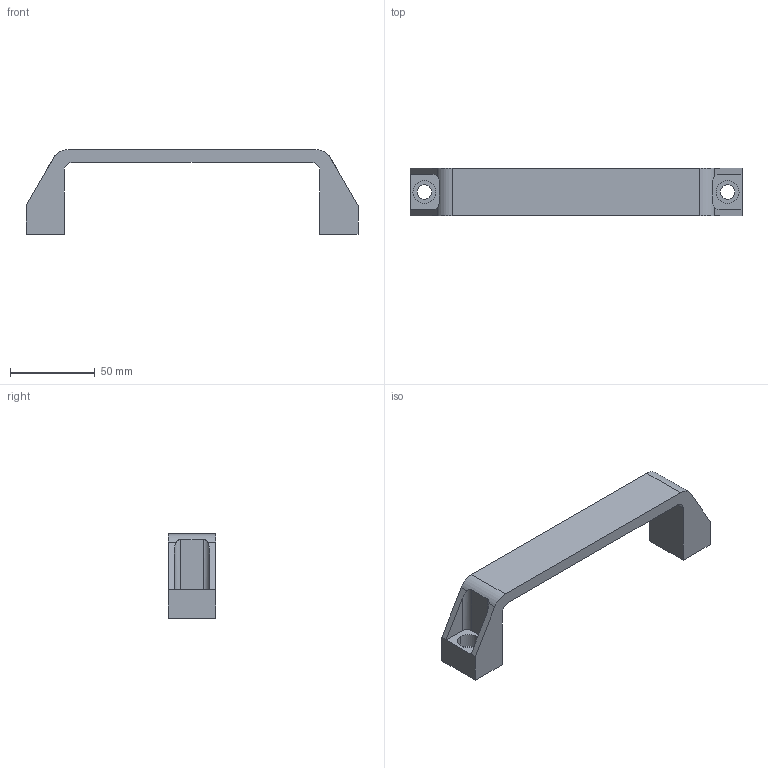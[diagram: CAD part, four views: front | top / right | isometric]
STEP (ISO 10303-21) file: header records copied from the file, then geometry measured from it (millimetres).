
FILE_DESCRIPTION (( 'STEP AP203' ), '1' );
FILE_NAME ('ags200-og.STEP', '2021-10-21T07:30:01', ( '' ), ( '' ), 'SwSTEP 2.0', 'SolidWorks 2020', '' );
FILE_SCHEMA (( 'CONFIG_CONTROL_DESIGN' ));
Length unit declared in the file: millimetre
Products named in the file (1): ags200-og
Bounding box: 196 x 28 x 50 mm (x, y, z)
Volume: 63359.9 mm3; surface area: 23015.7 mm2
Topology: 1 solids, 1 shells, 40 faces, 104 edges, 68 vertices
Faces by surface type: plane 24, cylinder 16
Entity records: 1345 total; most frequent: CARTESIAN_POINT 269, ORIENTED_EDGE 208, DIRECTION 206, EDGE_CURVE 104, AXIS2_PLACEMENT_3D 69, LINE 68, VECTOR 68, VERTEX_POINT 68
